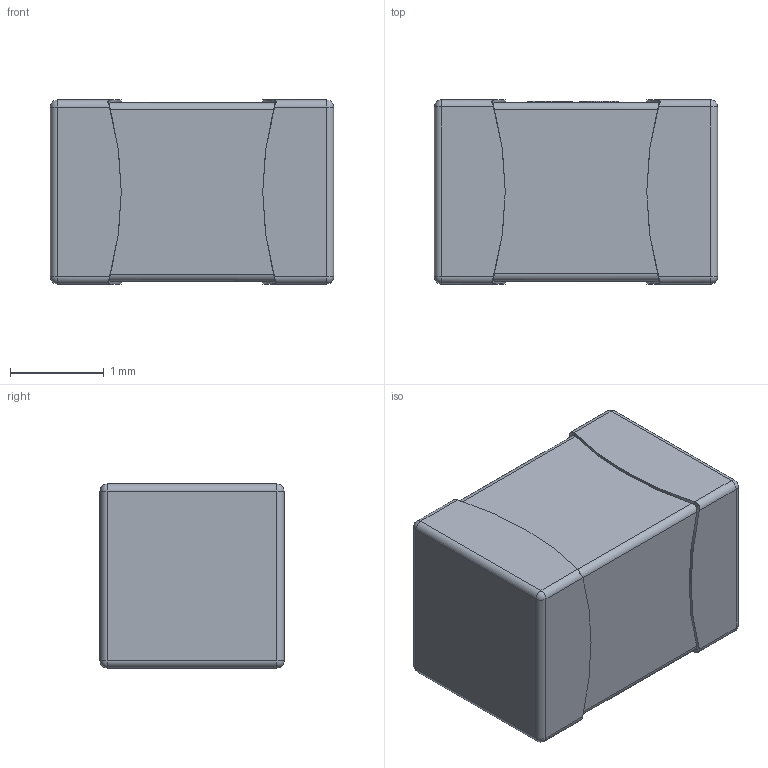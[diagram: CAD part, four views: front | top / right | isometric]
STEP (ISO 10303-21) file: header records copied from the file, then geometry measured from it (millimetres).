
FILE_DESCRIPTION(/* description */ ('STEP AP242 Edition 2','CAx-IF Rec.Pracs.---Representation and Presentation of Product Manufacturing Information (PMI)---4.0---2014-10-13','CAx-IF Rec.Pracs.---3D Tessellated Geometry---0.4---2014-09-14','2;1','CAx-IF Rec.Pracs.---User Defined Attributes---1.5---2016-08-15'),/* implementation_level */ '2;1');
FILE_NAME(/* name */ 'Assembly 1 - C0805~C0805_L2.0-W1.3-H1.3~nxQB (1)',/* time_stamp */ '2026-04-02T09:55:07Z',/* author */ (''),/* organization */ (''),/* preprocessor_version */ 'ST-DEVELOPER v20',/* originating_system */ 'ONSHAPE BY PTC INC, 1.212',/* authorisation */ ' ');
FILE_SCHEMA (('AP242_MANAGED_MODEL_BASED_3D_ENGINEERING_MIM_LF { 1 0 10303 442 3 1 4 }'));
Length unit declared in the file: metre
Products named in the file (1): C0805~C0805_L2.0-W1.3-H1.3~nxQB
Bounding box: 3.01 x 1.96 x 1.96 mm (x, y, z)
Volume: 11.2 mm3; surface area: 30.6 mm2
Topology: 1 solids, 1 shells, 363 faces, 965 edges, 622 vertices
Faces by surface type: plane 200, cylinder 149, sphere 8, bspline 6
Entity records: 12220 total; most frequent: CARTESIAN_POINT 2600, ORIENTED_EDGE 1914, DIRECTION 1833, EDGE_CURVE 957, AXIS2_PLACEMENT_3D 658, VERTEX_POINT 622, LINE 517, VECTOR 517
